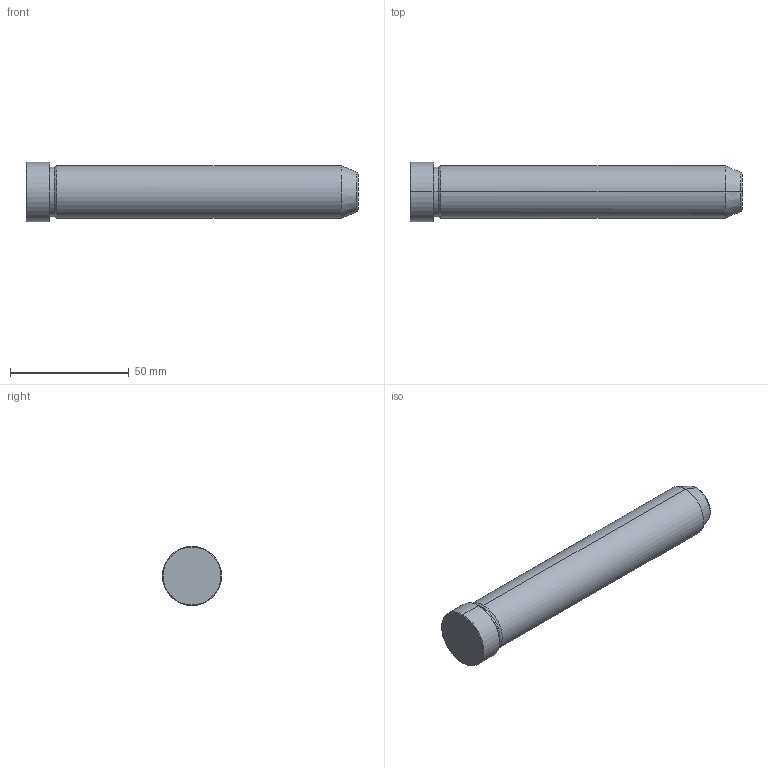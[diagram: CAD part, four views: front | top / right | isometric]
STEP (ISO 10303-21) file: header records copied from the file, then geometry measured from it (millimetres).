
FILE_DESCRIPTION(('CATIA V5 STEP Exchange'),'2;1');
FILE_NAME('C:\Users\Utente\Desktop\IO LAVORO\3D X SITO CF\X SITO\PLASTICA\549\549-22X140.stp','2021-12-13T12:58:55+00:00',('none'),('none'),'CATIA Version 5 Release 20 GA (IN-10)','CATIA V5 STEP AP203','none');
FILE_SCHEMA(('CONFIG_CONTROL_DESIGN'));
Length unit declared in the file: millimetre
Products named in the file (1): 549-22X140
Bounding box: 140 x 25 x 25 mm (x, y, z)
Volume: 53607.1 mm3; surface area: 10551.5 mm2
Topology: 1 solids, 1 shells, 19 faces, 56 edges, 40 vertices
Faces by surface type: cone 8, cylinder 6, plane 3, torus 2
Entity records: 736 total; most frequent: CARTESIAN_POINT 192, ORIENTED_EDGE 112, DIRECTION 86, EDGE_CURVE 56, AXIS2_PLACEMENT_3D 54, VERTEX_POINT 40, CIRCLE 34, EDGE_LOOP 20
